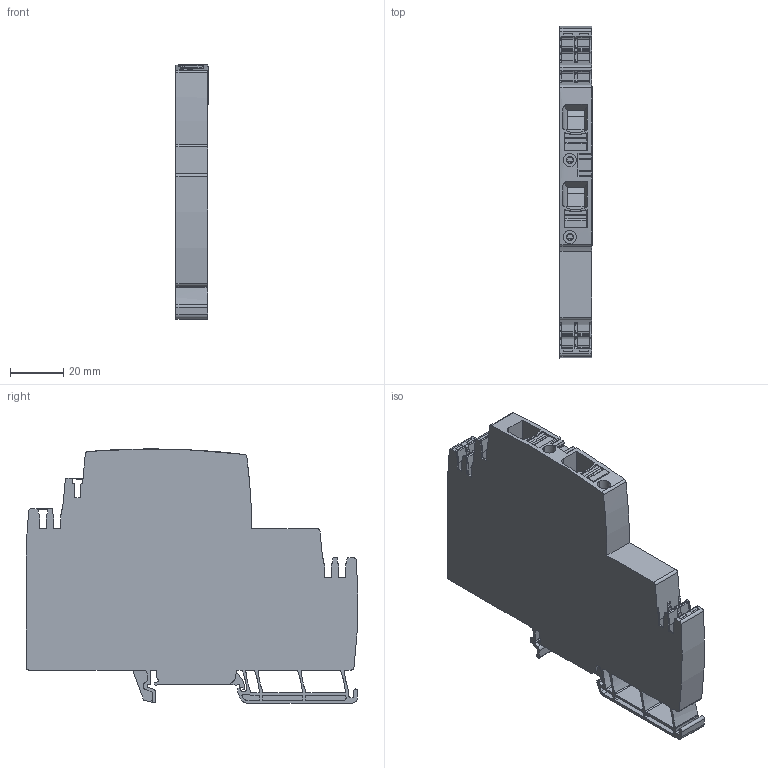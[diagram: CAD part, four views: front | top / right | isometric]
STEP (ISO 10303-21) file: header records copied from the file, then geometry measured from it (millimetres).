
FILE_DESCRIPTION(('CATIA V5R24 STEP','CAx-IF Rec.Pracs.--- Model Styling and Organization---1.2---2011-12-15'),'2;1');
FILE_NAME('\\SRVDE107\Germany\WMC\1_WMC_Input\Step_BU_PA\2081870000.stp','2017-09-05T11:52:23+00:00',('Weidmueller Interface'),('WI'),'CATIA Version 5-6 Release 2014 SP4','CATIA V5 STEP AP214','none');
FILE_SCHEMA(('AUTOMOTIVE_DESIGN { 1 0 10303 214 1 1 1 1 }'));
Length unit declared in the file: millimetre
Products named in the file (1): 2081870000
Bounding box: 12.1 x 125.07 x 95.75 mm (x, y, z)
Volume: 100071.5 mm3; surface area: 31993.7 mm2
Topology: 7 solids, 7 shells, 920 faces, 2997 edges, 2115 vertices
Faces by surface type: plane 487, cylinder 345, extrusion 88
Entity records: 34925 total; most frequent: CARTESIAN_POINT 8599, ORIENTED_EDGE 5994, DIRECTION 4116, EDGE_CURVE 2997, VECTOR 2124, VERTEX_POINT 2115, LINE 2036, AXIS2_PLACEMENT_3D 1345
